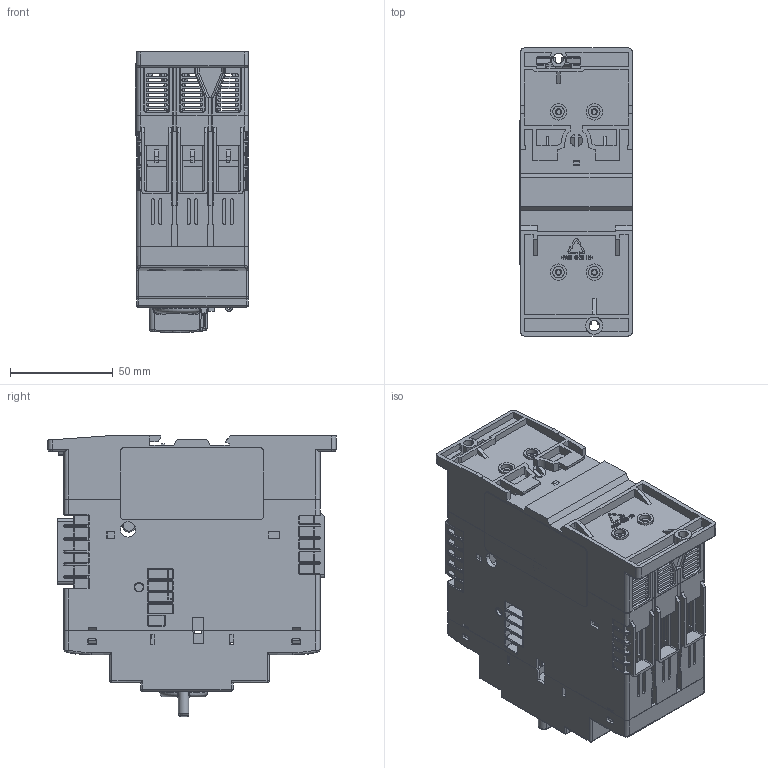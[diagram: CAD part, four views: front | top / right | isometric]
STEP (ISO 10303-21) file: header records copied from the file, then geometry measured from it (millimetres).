
FILE_DESCRIPTION((''),'2;1');
FILE_NAME('EX9S80_ASM','2022-02-07T16:31:10',('hjqing'),(''),'CREO PARAMETRIC BY PTC INC, 2020044','CREO PARAMETRIC BY PTC INC, 2020044','');
FILE_SCHEMA(('CONFIG_CONTROL_DESIGN','SHAPE_APPEARANCE_LAYERS_GROUPS'));
Products named in the file (21): 8024S0101003_122; 5024S1526003120_ASM_58_ASM; 8024S0101004_290; 5024S15260041-7_ASM_95_ASM; 8315S0101003_124; 8443S0101001_14; 8253S0101001_3; 8270S0101001_1; 5253S1526001_ASM_2_ASM; 8288S0820108_AF0_5_1; 8288S0820108_AF0_5_2; 8288S0820108_AF0_5_3; 8288S0820108_AF0_5_ASM; 5315S1526002_ASM_24_ASM; ST26-12_3; 8320S0101004_11; 8860S1424003_2; 8860S1424004_5; 8315S0101004_14; 2S0021-7_ASM_50_ASM; EX9S80_ASM
Assembly tree (21 placements, depth 5):
  EX9S80_ASM
    2S0021-7_ASM_50_ASM
      5024S1526003120_ASM_58_ASM
        8024S0101003_122
      5024S15260041-7_ASM_95_ASM
        8024S0101004_290
      5315S1526002_ASM_24_ASM
        8315S0101003_124
        8443S0101001_14
        5253S1526001_ASM_2_ASM
          8253S0101001_3
          8270S0101001_1
        8288S0820108_AF0_5_ASM
          8288S0820108_AF0_5_1
          8288S0820108_AF0_5_2
          8288S0820108_AF0_5_3
      ST26-12_3  x2
      8320S0101004_11
      8860S1424003_2
      8860S1424004_5
      8315S0101004_14
Bounding box: 55 x 140.2 x 136.9 mm (x, y, z)
Volume: 218199.1 mm3; surface area: 251143 mm2
Topology: 12 solids, 18 shells, 6921 faces, 20036 edges, 13152 vertices
Faces by surface type: plane 5259, cylinder 1108, extrusion 189, torus 177, cone 92, bspline 60, sphere 36
Entity records: 282983 total; most frequent: CARTESIAN_POINT 51530, ORIENTED_EDGE 39782, DIRECTION 35409, EDGE_CURVE 19897, VECTOR 16315, LINE 16126, VERTEX_POINT 13080, AXIS2_PLACEMENT_3D 9547
